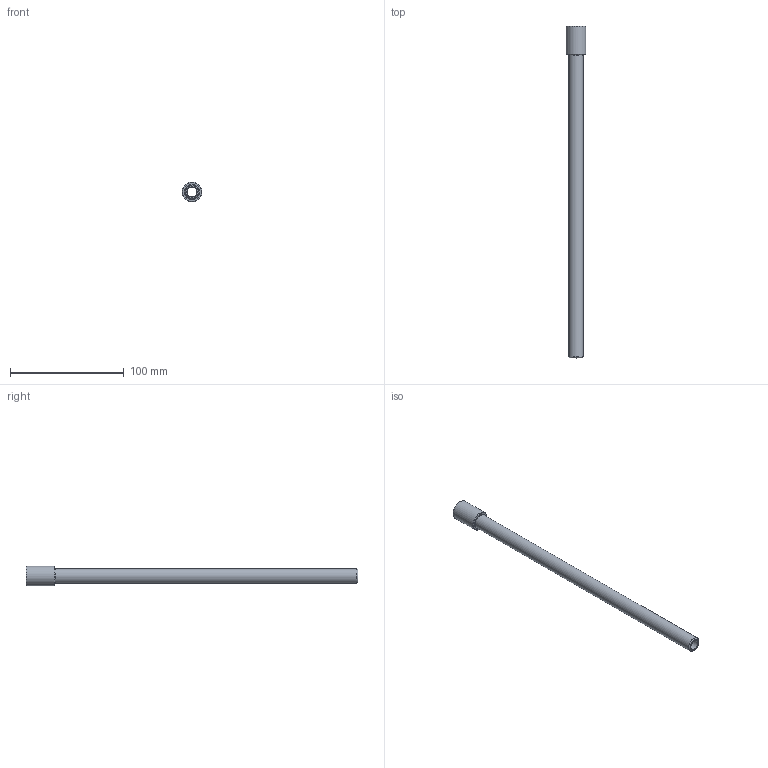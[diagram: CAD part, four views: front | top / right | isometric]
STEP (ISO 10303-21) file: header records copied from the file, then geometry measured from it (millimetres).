
FILE_DESCRIPTION(/* description */ (''),/* implementation_level */ '2;1');
FILE_NAME(/* name */ 'C:/Users/drich/Desktop/EP14X11-1_2 v1.step',/* time_stamp */ '2019-11-18T15:02:23-06:00',/* author */ (''),/* organization */ (''),/* preprocessor_version */ 'ST-DEVELOPER v18',/* originating_system */ 'Autodesk Translation Framework v8.12.0.6',/* authorisation */ '');
FILE_SCHEMA (('AUTOMOTIVE_DESIGN { 1 0 10303 214 3 1 1 }'));
Length unit declared in the file: inch
Products named in the file (2): EP14X11-1_2; EP14X4
Assembly tree (1 placements, depth 2):
  EP14X11-1_2
    EP14X4
Bounding box: 17.45 x 292.1 x 17.45 mm (x, y, z)
Volume: 23328.6 mm3; surface area: 20796.8 mm2
Topology: 1 solids, 1 shells, 23 faces, 55 edges, 37 vertices
Faces by surface type: plane 11, cone 7, cylinder 5
Full cylindrical faces by diameter (mm): 8.712 x1, 11.43 x1, 11.668 x1, 13.032 x1, 17.45 x1
Entity records: 740 total; most frequent: CARTESIAN_POINT 132, DIRECTION 124, ORIENTED_EDGE 110, EDGE_CURVE 55, AXIS2_PLACEMENT_3D 50, VERTEX_POINT 37, EDGE_LOOP 28, LINE 24
